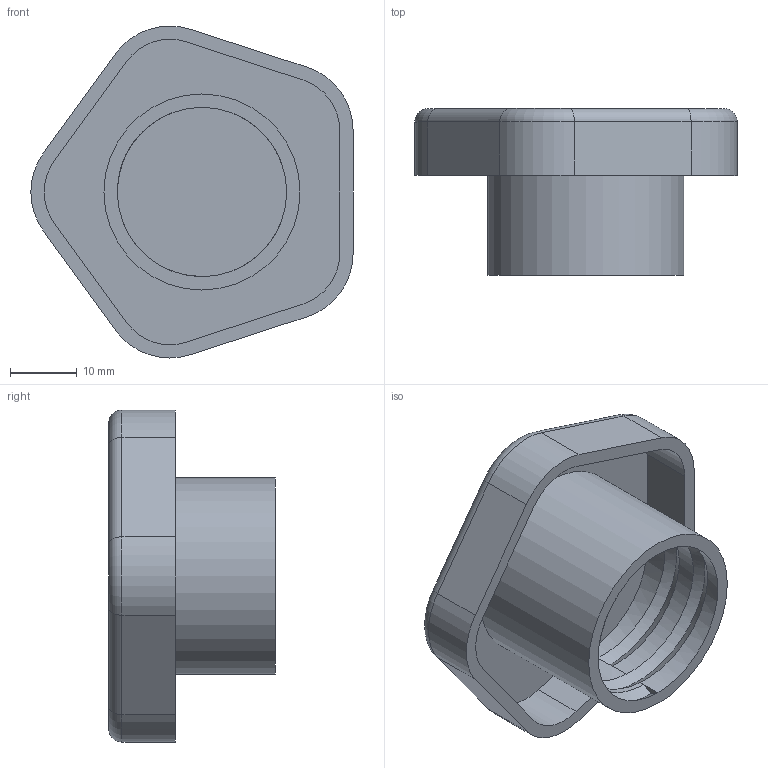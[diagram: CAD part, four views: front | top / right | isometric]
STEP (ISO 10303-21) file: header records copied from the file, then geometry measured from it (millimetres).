
FILE_DESCRIPTION(/* description */ (''),/* implementation_level */ '2;1');
FILE_NAME(/* name */ 'C:\Users\user\Documents\Inventor\Home Ventilator CPAP\Cap for container.stp',/* time_stamp */ '2020-04-03T13:39:04+02:00',/* author */ ('user'),/* organization */ (''),/* preprocessor_version */ 'ST-DEVELOPER v16.5',/* originating_system */ 'Autodesk Inventor 2017',/* authorisation */ '');
FILE_SCHEMA (('AUTOMOTIVE_DESIGN { 1 0 10303 214 3 1 1 }'));
Length unit declared in the file: millimetre
Products named in the file (1): Cap for container
Bounding box: 48.33 x 25 x 49.79 mm (x, y, z)
Volume: 13650 mm3; surface area: 9631.9 mm2
Topology: 1 solids, 1 shells, 43 faces, 102 edges, 64 vertices
Faces by surface type: cylinder 19, plane 17, torus 5, bspline 2
Full cylindrical faces by diameter (mm): 25.4 x2, 29.4 x1
Entity records: 1531 total; most frequent: CARTESIAN_POINT 517, DIRECTION 211, ORIENTED_EDGE 188, EDGE_CURVE 94, AXIS2_PLACEMENT_3D 80, VERTEX_POINT 60, LINE 51, VECTOR 51
